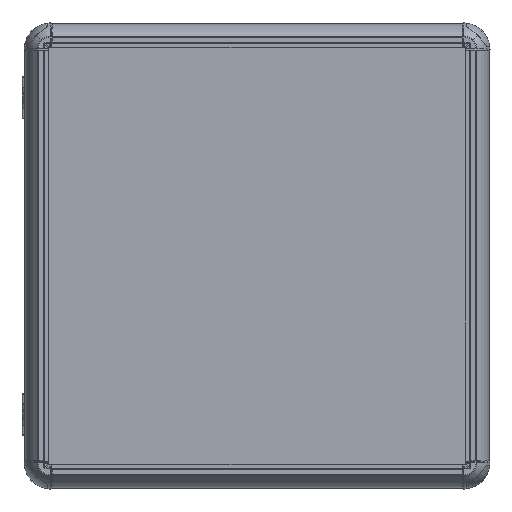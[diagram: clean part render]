
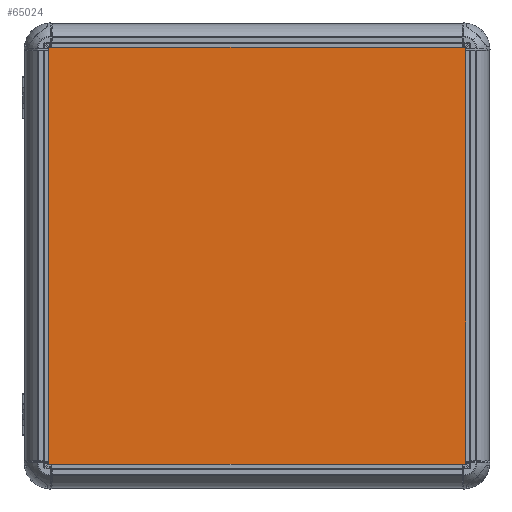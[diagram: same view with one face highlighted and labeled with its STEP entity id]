
A CAD part, top view. The second image highlights one B-rep face of the part: STEP entity #65024.
In plain terms, the highlighted planar face has unit normal (0, 0, 1).
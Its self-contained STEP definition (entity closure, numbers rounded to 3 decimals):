
#944 = DIRECTION ( 'NONE',  ( 0., 1., 0. ) ) ;
#5079 = EDGE_CURVE ( 'NONE', #145528, #59937, #32966, .T. ) ;
#32020 = AXIS2_PLACEMENT_3D ( 'NONE', #55927, #55169, #32069 ) ;
#32069 = DIRECTION ( 'NONE',  ( 1., 0., 0. ) ) ;
#32966 = LINE ( 'NONE', #118292, #70278 ) ;
#36085 = CARTESIAN_POINT ( 'NONE',  ( 200., -200., 2. ) ) ;
#41533 = CARTESIAN_POINT ( 'NONE',  ( -200., 200., 2. ) ) ;
#41902 = VECTOR ( 'NONE', #81641, 1000. ) ;
#43058 = EDGE_LOOP ( 'NONE', ( #103749, #146709, #79854, #128621 ) ) ;
#43929 = PLANE ( 'NONE',  #32020 ) ;
#48647 = CARTESIAN_POINT ( 'NONE',  ( 200., 200., 2. ) ) ;
#55169 = DIRECTION ( 'NONE',  ( 0., 0., 1. ) ) ;
#55476 = VERTEX_POINT ( 'NONE', #65656 ) ;
#55609 = EDGE_CURVE ( 'NONE', #114337, #145528, #72776, .T. ) ;
#55927 = CARTESIAN_POINT ( 'NONE',  ( 0., 0., 2. ) ) ;
#57708 = DIRECTION ( 'NONE',  ( -1., 0., 0. ) ) ;
#59937 = VERTEX_POINT ( 'NONE', #41533 ) ;
#65024 = ADVANCED_FACE ( 'NONE', ( #80655 ), #43929, .T. ) ;
#65051 = CARTESIAN_POINT ( 'NONE',  ( -200., 200., 2. ) ) ;
#65656 = CARTESIAN_POINT ( 'NONE',  ( -200., -200., 2. ) ) ;
#70278 = VECTOR ( 'NONE', #57708, 1000. ) ;
#72776 = LINE ( 'NONE', #132536, #151926 ) ;
#79854 = ORIENTED_EDGE ( 'NONE', *, *, #137405, .T. ) ;
#80655 = FACE_OUTER_BOUND ( 'NONE', #43058, .T. ) ;
#81641 = DIRECTION ( 'NONE',  ( 1., 0., 0. ) ) ;
#93662 = LINE ( 'NONE', #119166, #41902 ) ;
#101311 = EDGE_CURVE ( 'NONE', #55476, #114337, #93662, .T. ) ;
#103749 = ORIENTED_EDGE ( 'NONE', *, *, #55609, .T. ) ;
#114337 = VERTEX_POINT ( 'NONE', #36085 ) ;
#118292 = CARTESIAN_POINT ( 'NONE',  ( -200., 200., 2. ) ) ;
#119166 = CARTESIAN_POINT ( 'NONE',  ( -200., -200., 2. ) ) ;
#128621 = ORIENTED_EDGE ( 'NONE', *, *, #101311, .T. ) ;
#132536 = CARTESIAN_POINT ( 'NONE',  ( 200., 200., 2. ) ) ;
#137405 = EDGE_CURVE ( 'NONE', #59937, #55476, #151143, .T. ) ;
#138416 = DIRECTION ( 'NONE',  ( 0., -1., 0. ) ) ;
#145528 = VERTEX_POINT ( 'NONE', #48647 ) ;
#146709 = ORIENTED_EDGE ( 'NONE', *, *, #5079, .T. ) ;
#151143 = LINE ( 'NONE', #65051, #156229 ) ;
#151926 = VECTOR ( 'NONE', #944, 1000. ) ;
#156229 = VECTOR ( 'NONE', #138416, 1000. ) ;
